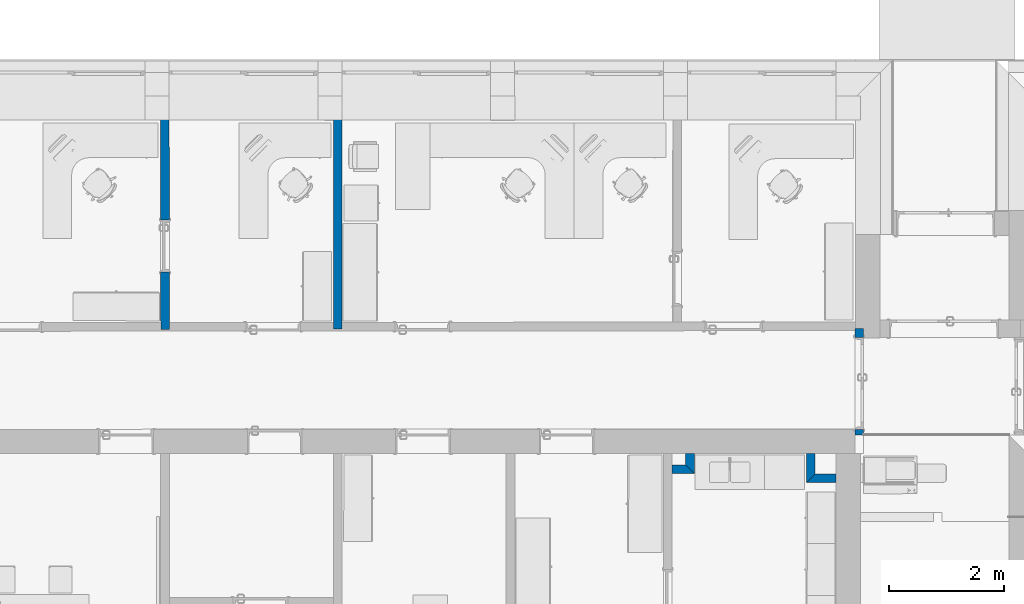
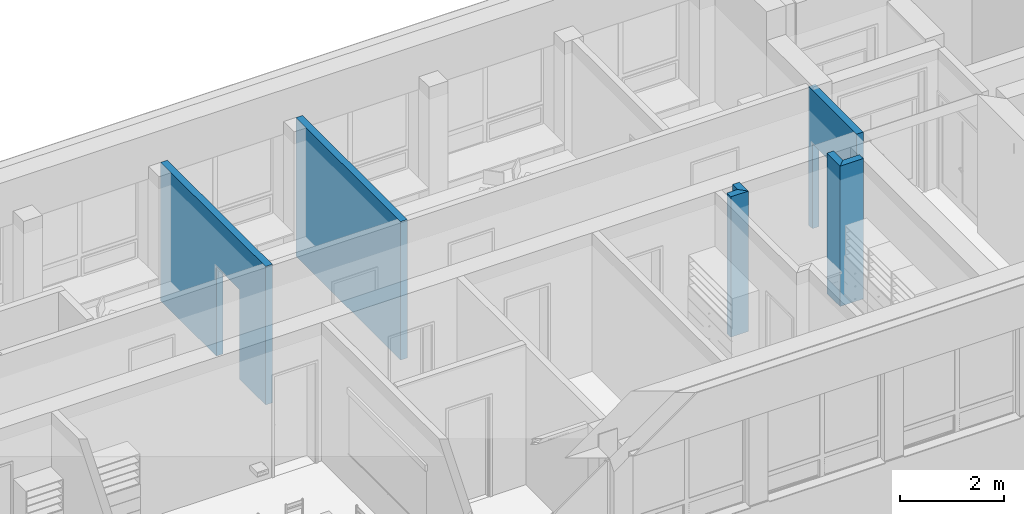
# One storey, part 17 of 194: 7 walls, 2 openings.
"""IFC2X3 building model written with IfcOpenShell, lengths in millimetres."""

from ifc_helpers import new_model, entity, si_unit, converted_unit, derived_unit, money_unit, direction, frame, origin_with_axes, origin_2d_with_axis, place, context, subcontext, project, spatial, polyline, rectangle, outline, extrude, material, layer, layer_set, layer_usage, type_object, element, save


model = new_model("IFC2X3")

# Units and contexts
model_context = context("Model", 3, precision=1e-05, world=origin_with_axes(), true_north=direction((0.0, 1.0)))
body_context = subcontext(model_context, "Body", "Model", "MODEL_VIEW")
ifc_project = project(units=[si_unit("LENGTHUNIT", "METRE", prefix="MILLI"), si_unit("AREAUNIT", "SQUARE_METRE"), si_unit("VOLUMEUNIT", "CUBIC_METRE"), converted_unit("PLANEANGLEUNIT", "DEGREE", entity("IfcPlaneAngleMeasure", 0.0174532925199), si_unit("PLANEANGLEUNIT", "RADIAN"), dimensions=[0, 0, 0, 0, 0, 0, 0]), si_unit("SOLIDANGLEUNIT", "STERADIAN"), money_unit("EUR"), converted_unit("TIMEUNIT", "Year", entity("IfcTimeMeasure", 31556926.0), si_unit("TIMEUNIT", "SECOND"), dimensions=[0, 0, 1, 0, 0, 0, 0]), si_unit("MASSUNIT", "GRAM", prefix="KILO"), si_unit("THERMODYNAMICTEMPERATUREUNIT", "DEGREE_CELSIUS"), si_unit("LUMINOUSINTENSITYUNIT", "LUMEN"), si_unit("ENERGYUNIT", "JOULE", prefix="MEGA"), derived_unit("THERMALCONDUCTANCEUNIT", [(si_unit("POWERUNIT", "WATT"), 1), (si_unit("LENGTHUNIT", "METRE"), -1), (si_unit("THERMODYNAMICTEMPERATUREUNIT", "KELVIN"), -1)]), derived_unit("SPECIFICHEATCAPACITYUNIT", [(si_unit("ENERGYUNIT", "JOULE"), 1), (si_unit("MASSUNIT", "GRAM", prefix="KILO"), -1), (si_unit("THERMODYNAMICTEMPERATUREUNIT", "KELVIN"), -1)]), derived_unit("MASSDENSITYUNIT", [(si_unit("MASSUNIT", "GRAM", prefix="KILO"), 1), (si_unit("VOLUMEUNIT", "CUBIC_METRE"), -1)])], contexts=[model_context])

# Site, building, storey
site_placement = place(None, origin_with_axes())
site = spatial("IfcSite", under=ifc_project, at=site_placement, Name="Site", CompositionType="ELEMENT")
building_placement = place(site_placement, origin_with_axes())
building = spatial("IfcBuilding", under=site, at=building_placement, Name="Building", CompositionType="ELEMENT")
storey_placement = place(building_placement, frame((0.0, 0.0, 3000.0), z_axis=(0.0, 0.0, 1.0), x_axis=(1.0, 0.0, 0.0)))
storey = spatial("IfcBuildingStorey", under=building, at=storey_placement, Name="2 KORRUS", CompositionType="ELEMENT", Elevation=3000.0)

# Wall, opening
ifc_material_1 = material(Name="Kivi -Ol.Olev Konstruktsioon")
ifc_layer_1 = layer(ifc_material_1, 150.0, ventilated="UNKNOWN")
ifc_layer_set_1 = layer_set([ifc_layer_1], Name="ol.olev ss 150")
ifc_layer_usage_1 = layer_usage(ifc_layer_set_1, "AXIS2", "POSITIVE", -150.0)
wall_type_1 = type_object("IfcWallType", Name="SW - 022", PredefinedType="NOTDEFINED")
wall_1_placement = place(storey_placement, frame((49153.7551418, 47302.325893, 0.0), z_axis=(0.0, 0.0, 1.0), x_axis=(0.00079728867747, -0.999999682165, 0.0)))
wall_1 = element("IfcWallStandardCase", 1, at=wall_1_placement, inside=storey, type_object=wall_type_1, material=ifc_layer_usage_1, Name="ol.olev ss 150", context=body_context, shape_type="SweptSolid", body=[
    extrude(outline(polyline([(429.88054333, -150.0), (4461.53896125, -150.0), (4461.53896125, 0.0), (430.000136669, 1.13686837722e-10), (429.88054333, -150.0)])), origin_with_axes(), (0.0, 0.0, 1.0), 3250.0),
])
opening_1_placement = place(wall_1_placement, frame((3016.95794605, 0.0, 0.0), z_axis=(0.0, 0.0, 1.0), x_axis=(1.0, 0.0, 0.0)))
element("IfcOpeningElement", 2, at=opening_1_placement, cuts=wall_1, Name="Siseuks * Door 22", context=body_context, shape_type="SweptSolid", body=[
    extrude(rectangle(XDim=900.0, YDim=2100.0, at=origin_2d_with_axis()), frame((9.09494701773e-10, -150.0, 1050.0), z_axis=(0.0, -1.0, 0.0), x_axis=(1.0, 0.0, 0.0)), (0.0, 0.0, -1.0), 450.0),
    extrude(rectangle(XDim=973.999999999, YDim=2137.0, at=origin_2d_with_axis()), frame((1.81898940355e-09, -150.0, 1068.5), z_axis=(0.0, -1.0, 0.0), x_axis=(1.0, 0.0, 0.0)), (0.0, 0.0, 1.0), 150.0),
    extrude(rectangle(XDim=974.0, YDim=2137.0, at=origin_2d_with_axis()), frame((9.09494701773e-10, 0.0, 1068.5), z_axis=(0.0, 1.0, 0.0), x_axis=(1.0, 0.0, 0.0)), (0.0, 0.0, 1.0), 150.0),
])

# Wall
ifc_layer_usage_2 = layer_usage(ifc_layer_set_1, "AXIS2", "POSITIVE", -150.0)
wall_2_placement = place(storey_placement, frame((52154.3213377, 47302.325893, 0.0), z_axis=(0.0, 0.0, 1.0), x_axis=(0.0, -1.0, 0.0)))
element("IfcWallStandardCase", 3, at=wall_2_placement, inside=storey, type_object=wall_type_1, material=ifc_layer_usage_2, Name="ol.olev ss 150", context=body_context, shape_type="SweptSolid", body=[
    extrude(outline(polyline([(430.0, -150.0), (4458.98293449, -150.0), (4458.98293449, 0.0), (430.0, 0.0), (430.0, -150.0)])), origin_with_axes(), (0.0, 0.0, 1.0), 3250.0),
])

# Wall, opening
ifc_layer_usage_3 = layer_usage(ifc_layer_set_1, "AXIS2", "POSITIVE", 0.0)
wall_3_placement = place(storey_placement, frame((61058.1427585, 42850.8381212, 0.0), z_axis=(0.0, 0.0, 1.0), x_axis=(0.0, -1.0, 0.0)))
wall_3 = element("IfcWallStandardCase", 4, at=wall_3_placement, inside=storey, type_object=wall_type_1, material=ifc_layer_usage_3, Name="ol.olev ss 150", context=body_context, shape_type="SweptSolid", body=[
    extrude(outline(polyline([(0.0, 0.0), (1847.77319305, 0.0), (1847.77319305, 150.0), (0.0, 150.0), (0.0, 0.0)])), origin_with_axes(), (0.0, 0.0, 1.0), 3250.0),
])
opening_2_placement = place(wall_3_placement, frame((950.344035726, 0.0, 0.0), z_axis=(0.0, 0.0, 1.0), x_axis=(1.0, 0.0, 0.0)))
element("IfcOpeningElement", 5, at=opening_2_placement, cuts=wall_3, Name="Siseuks * Double Door 22", context=body_context, shape_type="SweptSolid", body=[
    extrude(rectangle(XDim=1600.0, YDim=2000.0, at=origin_2d_with_axis()), frame((0.0, -150.0, 1000.0), z_axis=(0.0, -1.0, 0.0), x_axis=(-1.0, 0.0, 0.0)), (0.0, 0.0, -1.0), 450.0),
    extrude(rectangle(XDim=1674.0, YDim=2037.0, at=origin_2d_with_axis()), frame((0.0, 0.0, 1018.5), z_axis=(0.0, -1.0, 0.0), x_axis=(-1.0, 0.0, 0.0)), (0.0, 0.0, 1.0), 150.0),
    extrude(rectangle(XDim=1674.0, YDim=2037.0, at=origin_2d_with_axis()), frame((0.0, 150.0, 1018.5), z_axis=(0.0, 1.0, 0.0), x_axis=(-1.0, 0.0, 0.0)), (0.0, 0.0, 1.0), 150.0),
])

# Walls
ifc_material_2 = material(Name="Kivi -  Uus Konstruktsioon")
ifc_layer_2 = layer(ifc_material_2, 150.0, ventilated="UNKNOWN")
ifc_layer_set_2 = layer_set([ifc_layer_2], Name="uus ss 150")
ifc_layer_usage_4 = layer_usage(ifc_layer_set_2, "AXIS2", "NEGATIVE", 0.0)
wall_type_2 = type_object("IfcWallType", Name="SS-1", PredefinedType="NOTDEFINED")
wall_4_placement = place(storey_placement, frame((58121.4411584, 40486.2727404, 0.0), z_axis=(0.0, 0.0, 1.0), x_axis=(0.0, 1.0, 0.0)))
element("IfcWallStandardCase", 6, at=wall_4_placement, inside=storey, type_object=wall_type_2, material=ifc_layer_usage_4, Name="sahti sein", context=body_context, shape_type="SweptSolid", body=[
    extrude(outline(polyline([(-149.882792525, -150.0), (195.351529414, -150.0), (195.351529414, 0.0), (-9.09494701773e-10, 0.0), (-149.882792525, -150.0)])), origin_with_axes(), (0.0, 0.0, 1.0), 3294.8304041),
])
ifc_layer_usage_5 = layer_usage(ifc_layer_set_2, "AXIS2", "NEGATIVE", 0.0)
wall_5_placement = place(storey_placement, frame((57734.0550113, 40485.969925, 0.0), z_axis=(0.0, 0.0, 1.0), x_axis=(0.999999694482, 0.000781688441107, 0.0)))
element("IfcWallStandardCase", 7, at=wall_5_placement, inside=storey, type_object=wall_type_2, material=ifc_layer_usage_5, Name="sahti sein", context=body_context, shape_type="SweptSolid", body=[
    extrude(outline(polyline([(150.000000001, -149.999999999), (537.269058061, -150.0), (387.386265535, 0.0), (150.0, 9.09494701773e-10), (150.000000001, -149.999999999)])), origin_with_axes(), (0.0, 0.0, 1.0), 3294.8304041),
])
ifc_layer_usage_6 = layer_usage(ifc_layer_set_2, "AXIS2", "NEGATIVE", 0.0)
wall_6_placement = place(storey_placement, frame((60367.7047664, 40327.8555648, 0.0), z_axis=(0.0, 0.0, 1.0), x_axis=(1.0, 0.0, 0.0)))
element("IfcWallStandardCase", 8, at=wall_6_placement, inside=storey, type_object=wall_type_2, material=ifc_layer_usage_6, Name="sahti sein", context=body_context, shape_type="SweptSolid", body=[
    extrude(outline(polyline([(-150.0, -150.0), (367.469551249, -150.0), (367.469551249, 0.0), (0.0, 0.0), (-150.0, -150.0)])), origin_with_axes(), (0.0, 0.0, 1.0), 3294.8304041),
])
ifc_layer_usage_7 = layer_usage(ifc_layer_set_2, "AXIS2", "NEGATIVE", 0.0)
wall_7_placement = place(storey_placement, frame((60367.7047664, 41101.6242698, 0.0), z_axis=(0.0, 0.0, 1.0), x_axis=(0.0, -1.0, 0.0)))
element("IfcWallStandardCase", 9, at=wall_7_placement, inside=storey, type_object=wall_type_2, material=ifc_layer_usage_7, Name="sahti sein", context=body_context, shape_type="SweptSolid", body=[
    extrude(outline(polyline([(420.0, -150.0), (923.768704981, -150.0), (773.768704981, 0.0), (420.0, 0.0), (420.0, -150.0)])), origin_with_axes(), (0.0, 0.0, 1.0), 3294.8304041),
])

save(model, "model.ifc")
